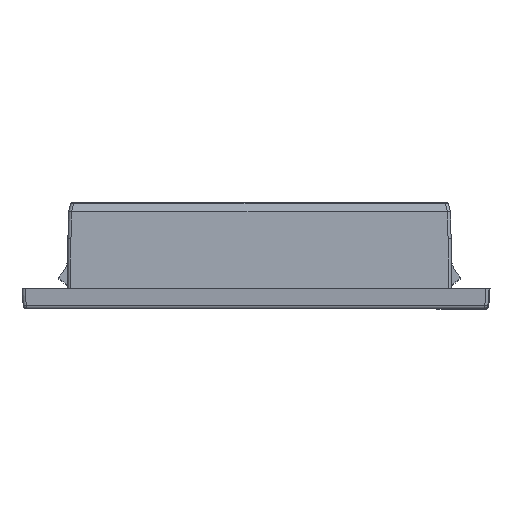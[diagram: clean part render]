
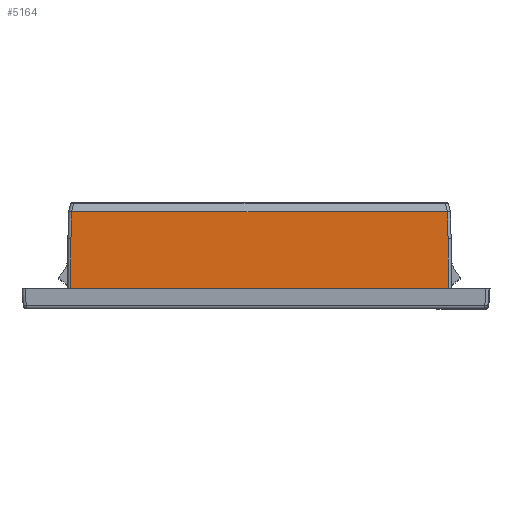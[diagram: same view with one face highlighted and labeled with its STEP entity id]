
A CAD part, front view. The second image highlights one B-rep face of the part: STEP entity #5164.
In plain terms, the highlighted planar face has unit normal (0, -1, 0).
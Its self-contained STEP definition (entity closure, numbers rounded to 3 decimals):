
#2454=FACE_OUTER_BOUND('',#11911,.T.);
#5164=ADVANCED_FACE('',(#2454),#7884,.T.);
#7884=PLANE('',#47017);
#11911=EDGE_LOOP('',(#20577,#20578,#20579,#20580,#20581,#20582));
#14911=LINE('',#66012,#16754);
#15260=LINE('',#69077,#17103);
#15289=LINE('',#69191,#17132);
#15290=LINE('',#69193,#17133);
#15291=LINE('',#69194,#17134);
#15292=LINE('',#69196,#17135);
#16754=VECTOR('',#52555,1.);
#17103=VECTOR('',#54552,1.);
#17132=VECTOR('',#54637,1.);
#17133=VECTOR('',#54638,1.);
#17134=VECTOR('',#54639,1.);
#17135=VECTOR('',#54640,1.);
#20577=ORIENTED_EDGE('',*,*,#37224,.T.);
#20578=ORIENTED_EDGE('',*,*,#38392,.T.);
#20579=ORIENTED_EDGE('',*,*,#38393,.T.);
#20580=ORIENTED_EDGE('',*,*,#38348,.F.);
#20581=ORIENTED_EDGE('',*,*,#38394,.T.);
#20582=ORIENTED_EDGE('',*,*,#38395,.T.);
#33044=VERTEX_POINT('',#66011);
#33045=VERTEX_POINT('',#66013);
#34012=VERTEX_POINT('',#69078);
#34013=VERTEX_POINT('',#69079);
#34035=VERTEX_POINT('',#69192);
#34036=VERTEX_POINT('',#69195);
#37224=EDGE_CURVE('',#33045,#33044,#14911,.T.);
#38348=EDGE_CURVE('',#34012,#34013,#15260,.T.);
#38392=EDGE_CURVE('',#33044,#34035,#15289,.T.);
#38393=EDGE_CURVE('',#34035,#34013,#15290,.T.);
#38394=EDGE_CURVE('',#34012,#34036,#15291,.T.);
#38395=EDGE_CURVE('',#34036,#33045,#15292,.T.);
#47017=AXIS2_PLACEMENT_3D('',#69197,#54641,#54642);
#52555=DIRECTION('',(1.,0.,0.));
#54552=DIRECTION('',(1.,0.,0.));
#54637=DIRECTION('',(0.,0.,1.));
#54638=DIRECTION('',(-0.026,0.,1.));
#54639=DIRECTION('',(-0.026,0.,-1.));
#54640=DIRECTION('',(0.,0.,-1.));
#54641=DIRECTION('',(0.,-1.,0.));
#54642=DIRECTION('',(0.,0.,-1.));
#66011=CARTESIAN_POINT('',(-351.064,91.863,24.));
#66012=CARTESIAN_POINT('',(-460.435,91.863,24.));
#66013=CARTESIAN_POINT('',(-473.785,91.863,24.));
#69077=CARTESIAN_POINT('',(-396.423,91.863,48.998));
#69078=CARTESIAN_POINT('',(-473.556,91.863,48.998));
#69079=CARTESIAN_POINT('',(-351.292,91.863,48.998));
#69191=CARTESIAN_POINT('',(-351.064,91.863,19.9));
#69192=CARTESIAN_POINT('',(-351.064,91.863,40.257));
#69193=CARTESIAN_POINT('',(-351.263,91.863,47.877));
#69194=CARTESIAN_POINT('',(-473.786,91.863,40.244));
#69195=CARTESIAN_POINT('',(-473.785,91.863,40.257));
#69196=CARTESIAN_POINT('',(-473.785,91.863,24.));
#69197=CARTESIAN_POINT('',(-460.435,91.863,19.9));
